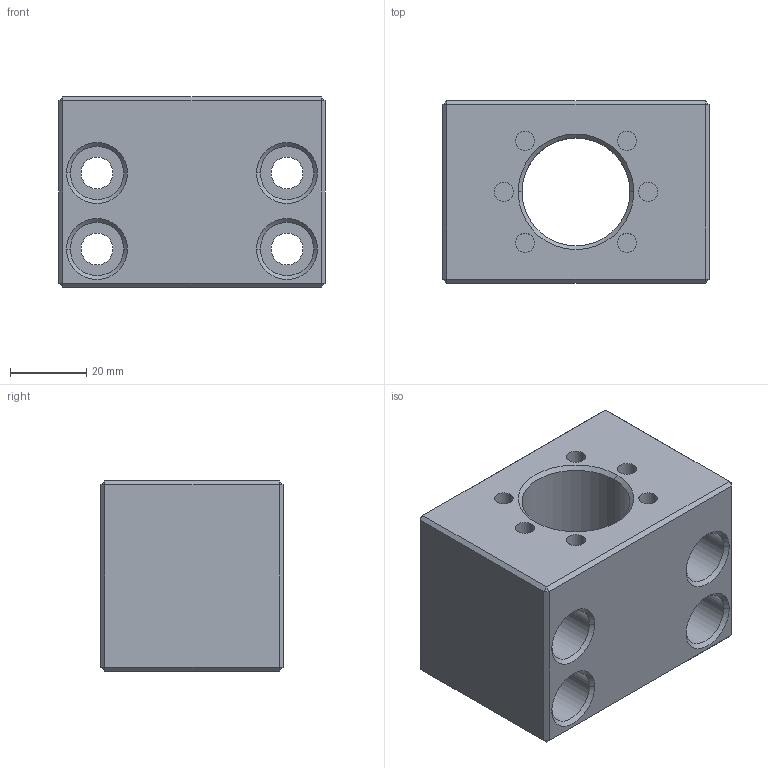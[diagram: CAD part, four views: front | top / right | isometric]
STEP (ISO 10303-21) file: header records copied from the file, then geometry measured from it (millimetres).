
FILE_DESCRIPTION (( 'STEP AP214' ), '1' );
FILE_NAME ('2.4019 Kuulamutterin kotelo MGD16.STEP', '2025-09-22T06:22:27', ( '' ), ( '' ), 'SwSTEP 2.0', 'SolidWorks 2025', '' );
FILE_SCHEMA (( 'AUTOMOTIVE_DESIGN' ));
Length unit declared in the file: millimetre
Products named in the file (1): 2.4019 Kuulamutterin kotelo MGD16
Bounding box: 70 x 48 x 50 mm (x, y, z)
Volume: 118154 mm3; surface area: 27853.5 mm2
Topology: 1 solids, 1 shells, 90 faces, 186 edges, 112 vertices
Faces by surface type: plane 40, cylinder 38, cone 12
Entity records: 2413 total; most frequent: DIRECTION 456, CARTESIAN_POINT 389, ORIENTED_EDGE 372, EDGE_CURVE 186, AXIS2_PLACEMENT_3D 179, EDGE_LOOP 114, VERTEX_POINT 112, LINE 98
